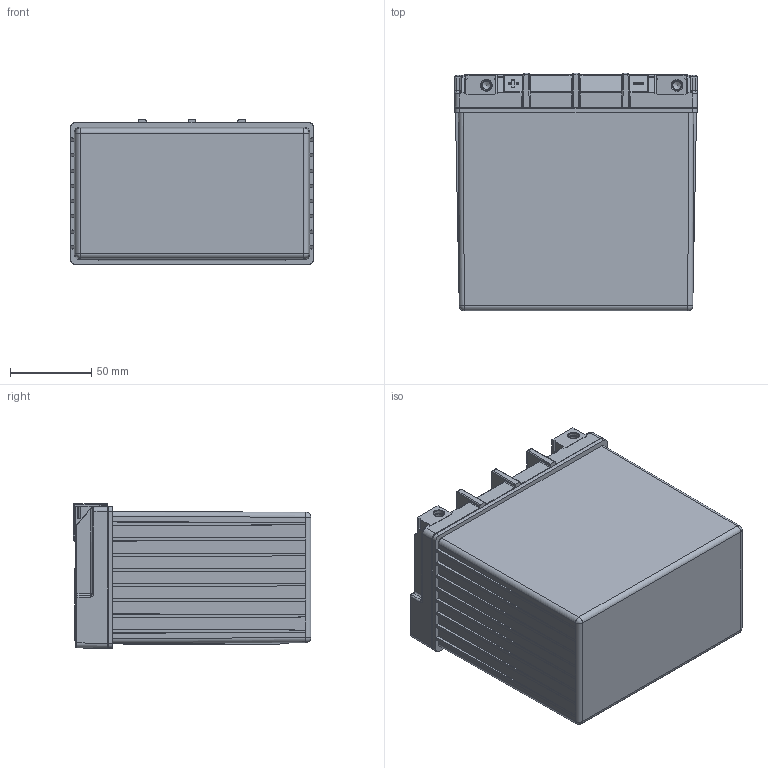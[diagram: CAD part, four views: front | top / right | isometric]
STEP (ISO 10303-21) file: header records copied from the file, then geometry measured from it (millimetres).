
FILE_DESCRIPTION (( 'STEP AP203' ), '1' );
FILE_NAME ('ODS-AGM14.STEP', '2023-10-26T20:51:40', ( '' ), ( '' ), 'SwSTEP 2.0', 'SolidWorks 2022', '' );
FILE_SCHEMA (( 'CONFIG_CONTROL_DESIGN' ));
Products named in the file (1): ODS-AGM14
Bounding box: 149 x 145.8 x 88.94 mm (x, y, z)
Volume: 417468 mm3; surface area: 344826.1 mm2
Topology: 12 solids, 12 shells, 2492 faces, 6187 edges, 3521 vertices
Faces by surface type: cylinder 922, plane 852, torus 230, sphere 218, bspline 185, cone 85
Full cylindrical faces by diameter (mm): 4.978 x1, 5 x4, 7.925 x5, 12.7 x4
Entity records: 74479 total; most frequent: CARTESIAN_POINT 19613, ORIENTED_EDGE 11536, DIRECTION 11421, EDGE_CURVE 5768, AXIS2_PLACEMENT_3D 4258, VERTEX_POINT 3470, VECTOR 2905, LINE 2905
